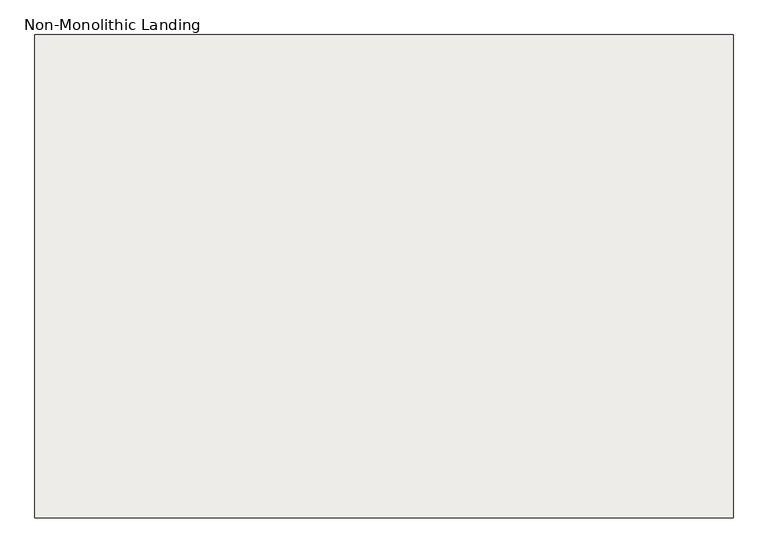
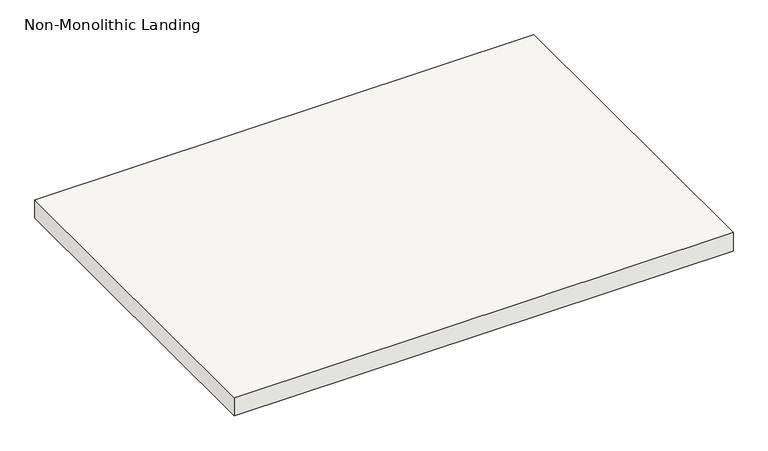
"""IFC4 building model written with IfcOpenShell, lengths in millimetres: slab geometry, Non-Monolithic Landing."""

from ifc_helpers import new_model, si_unit, frame, origin, place, context, project, spatial, polyline, outline, extrude, source, transform, mapped, element, save


def non_monolithic_landing_eab2c951(model_context):
    return source(origin(), model_context, "Body", "SweptSolid", [
        extrude(outline(polyline([(49950.7241768, 36930.1361774), (51271.5241768, 36930.1361774), (51271.5241768, 36015.7361774), (49950.7241768, 36015.7361774), (49950.7241768, 36930.1361774)])), frame((0.0, 0.0, 2126.3428571), z_axis=(0.0, 0.0, 1.0), x_axis=(1.0, 0.0, 0.0)), (0.0, 0.0, 1.0), 50.8),
    ])


if __name__ == "__main__":
    model = new_model("IFC4")
    model_context = context("Model", 3, world=origin())
    ifc_project = project(units=[si_unit("LENGTHUNIT", "METRE", prefix="MILLI")], contexts=[model_context])
    site = spatial("IfcSite", under=ifc_project)
    building = spatial("IfcBuilding", under=site)
    placement = place(None, origin())
    non_monolithic_landing_shape = non_monolithic_landing_eab2c951(model_context)
    element("IfcSlab", 1, ObjectType="Non-Monolithic Landing", at=placement, inside=building, context=model_context, shape_type="MappedRepresentation", body=[
        mapped(non_monolithic_landing_shape, transform((0.0, 0.0, 0.0), x_axis=(1.0, 0.0, 0.0), y_axis=(0.0, 1.0, 0.0), z_axis=(0.0, 0.0, 1.0))),
    ])
    save(model, "model.ifc")
